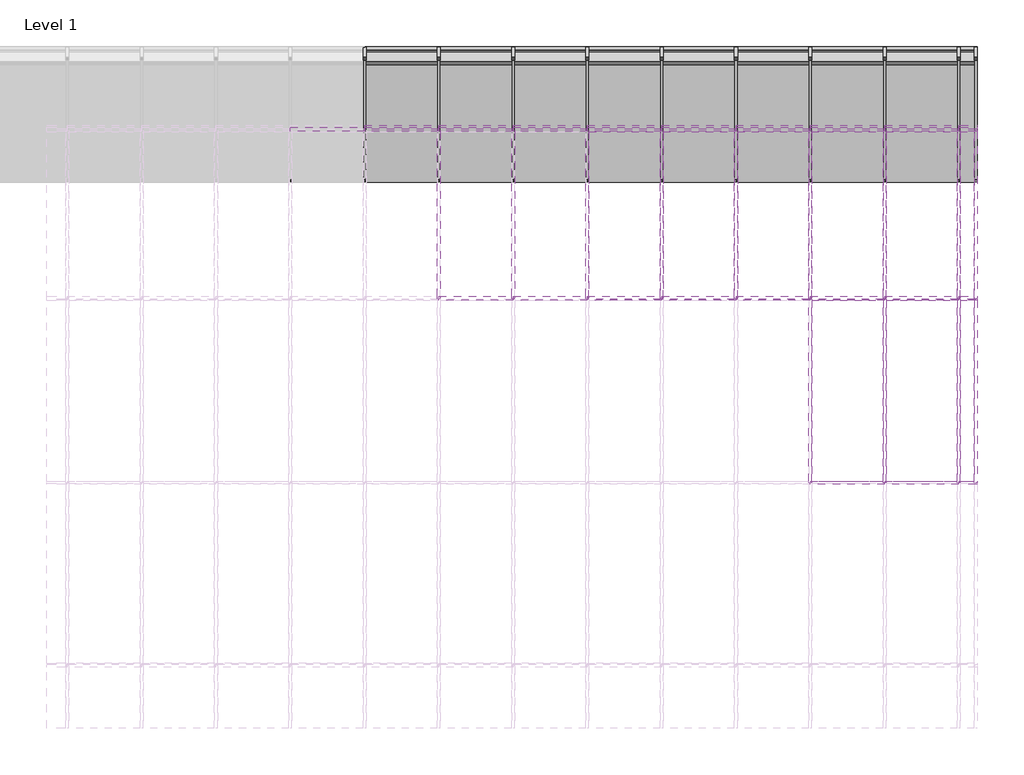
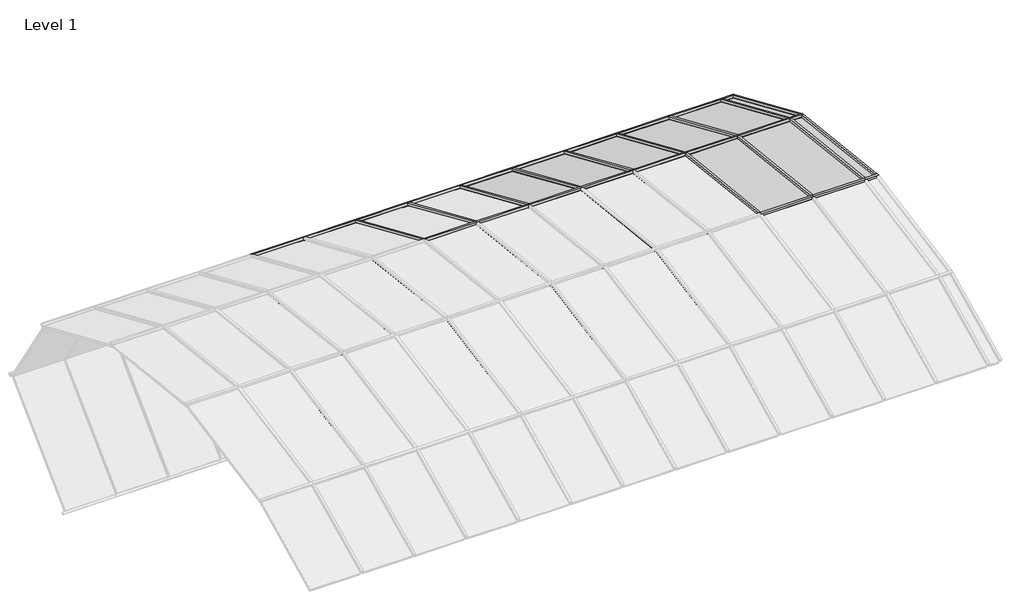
# One storey, part 22 of 23: 82 members, 27 plates.
"""IFC4 building model written with IfcOpenShell, lengths in millimetres."""

from ifc_helpers import new_model, si_unit, origin, place, context, project, spatial, transform, mapped, element, save
from components import member_68981e21, member_3e1f1dd8, member_fea202f7, member_e752087b, member_67cfadff, member_309acb9e, member_04f0a375, member_1d69e541, member_42213d33, member_0f8f75f6, member_88d46f17, member_1ddaab60, system_panel_glazed_51f493bd, system_panel_glazed_6e806f8e, system_panel_glazed_8cafdc8f, system_panel_glazed_3c61d676, system_panel_glazed_3957fabc, system_panel_glazed_e36701dd

model = new_model("IFC4")

# Units and contexts
model_context = context("Model", 3, world=origin())
ifc_project = project(units=[si_unit("LENGTHUNIT", "METRE", prefix="MILLI")], contexts=[model_context])

# Site, building, storey
site = spatial("IfcSite", under=ifc_project)
building = spatial("IfcBuilding", under=site)
storey = spatial("IfcBuildingStorey", under=building, Name="Level 1", Elevation=0.0)

# Members
placement = place(None, origin())
member_shape = member_68981e21(model_context)
element("IfcMember", 1, ObjectType="Rectangular Mullion : 1\" Square", at=placement, inside=storey, context=model_context, shape_type="MappedRepresentation", body=[
    mapped(member_shape, transform((450.2500186, 7543.2525753, 2085.6089632), x_axis=(0.0, 0.9167487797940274, -0.39946423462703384), y_axis=(0.0, 0.39946423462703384, 0.9167487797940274), z_axis=(1.0, 0.0, 0.0))),
])
element("IfcMember", 2, ObjectType="Rectangular Mullion : 1\" Square", at=placement, inside=storey, context=model_context, shape_type="MappedRepresentation", body=[
    mapped(member_shape, transform((1059.8500186, 7543.2525753, 2085.6089632), x_axis=(0.0, 0.9167487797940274, -0.39946423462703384), y_axis=(0.0, 0.39946423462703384, 0.9167487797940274), z_axis=(1.0, 0.0, 0.0))),
])
element("IfcMember", 3, ObjectType="Rectangular Mullion : 1\" Square", at=placement, inside=storey, context=model_context, shape_type="MappedRepresentation", body=[
    mapped(member_shape, transform((1669.4500186, 7543.2525753, 2085.6089632), x_axis=(0.0, 0.9167487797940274, -0.39946423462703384), y_axis=(0.0, 0.39946423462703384, 0.9167487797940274), z_axis=(1.0, 0.0, 0.0))),
])
element("IfcMember", 4, ObjectType="Rectangular Mullion : 1\" Square", at=placement, inside=storey, context=model_context, shape_type="MappedRepresentation", body=[
    mapped(member_shape, transform((2279.0500186, 7543.2525753, 2085.6089632), x_axis=(0.0, 0.9167487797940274, -0.39946423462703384), y_axis=(0.0, 0.39946423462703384, 0.9167487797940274), z_axis=(1.0, 0.0, 0.0))),
])
element("IfcMember", 5, ObjectType="Rectangular Mullion : 1\" Square", at=placement, inside=storey, context=model_context, shape_type="MappedRepresentation", body=[
    mapped(member_shape, transform((2888.6500186, 7543.2525753, 2085.6089632), x_axis=(0.0, 0.9167487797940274, -0.39946423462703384), y_axis=(0.0, 0.39946423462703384, 0.9167487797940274), z_axis=(1.0, 0.0, 0.0))),
])
element("IfcMember", 6, ObjectType="Rectangular Mullion : 1\" Square", at=placement, inside=storey, context=model_context, shape_type="MappedRepresentation", body=[
    mapped(member_shape, transform((3498.2500186, 7543.2525753, 2085.6089632), x_axis=(0.0, 0.9167487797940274, -0.39946423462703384), y_axis=(0.0, 0.39946423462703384, 0.9167487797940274), z_axis=(1.0, 0.0, 0.0))),
])
element("IfcMember", 7, ObjectType="Rectangular Mullion : 1\" Square", at=placement, inside=storey, context=model_context, shape_type="MappedRepresentation", body=[
    mapped(member_shape, transform((4107.8500186, 7543.2525753, 2085.6089632), x_axis=(0.0, 0.9167487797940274, -0.39946423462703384), y_axis=(0.0, 0.39946423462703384, 0.9167487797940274), z_axis=(1.0, 0.0, 0.0))),
])
element("IfcMember", 8, ObjectType="Rectangular Mullion : 1\" Square", at=placement, inside=storey, context=model_context, shape_type="MappedRepresentation", body=[
    mapped(member_shape, transform((4717.4500186, 7543.2525753, 2085.6089632), x_axis=(0.0, 0.9167487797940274, -0.39946423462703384), y_axis=(0.0, 0.39946423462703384, 0.9167487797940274), z_axis=(1.0, 0.0, 0.0))),
])
element("IfcMember", 9, ObjectType="Rectangular Mullion : 1\" Square", at=placement, inside=storey, context=model_context, shape_type="MappedRepresentation", body=[
    mapped(member_shape, transform((5327.0500186, 7543.2525753, 2085.6089632), x_axis=(0.0, 0.9167487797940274, -0.39946423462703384), y_axis=(0.0, 0.39946423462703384, 0.9167487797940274), z_axis=(1.0, 0.0, 0.0))),
])
element("IfcMember", 10, ObjectType="Rectangular Mullion : 1\" Square", at=placement, inside=storey, context=model_context, shape_type="MappedRepresentation", body=[
    mapped(member_shape, transform((450.2500186, 7111.8807303, 0.0), x_axis=(0.0, -0.713412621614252, -0.7007441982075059), y_axis=(0.0, 0.7007441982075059, -0.713412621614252), z_axis=(1.0, 0.0, 0.0))),
])
element("IfcMember", 11, ObjectType="Rectangular Mullion : 1\" Square", at=placement, inside=storey, context=model_context, shape_type="MappedRepresentation", body=[
    mapped(member_shape, transform((1059.8500186, 7111.8807303, 0.0), x_axis=(0.0, -0.713412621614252, -0.7007441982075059), y_axis=(0.0, 0.7007441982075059, -0.713412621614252), z_axis=(1.0, 0.0, 0.0))),
])
element("IfcMember", 12, ObjectType="Rectangular Mullion : 1\" Square", at=placement, inside=storey, context=model_context, shape_type="MappedRepresentation", body=[
    mapped(member_shape, transform((1669.4500186, 7111.8807303, 0.0), x_axis=(0.0, -0.713412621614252, -0.7007441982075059), y_axis=(0.0, 0.7007441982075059, -0.713412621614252), z_axis=(1.0, 0.0, 0.0))),
])
element("IfcMember", 13, ObjectType="Rectangular Mullion : 1\" Square", at=placement, inside=storey, context=model_context, shape_type="MappedRepresentation", body=[
    mapped(member_shape, transform((2279.0500186, 7111.8807303, 0.0), x_axis=(0.0, -0.713412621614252, -0.7007441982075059), y_axis=(0.0, 0.7007441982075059, -0.713412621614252), z_axis=(1.0, 0.0, 0.0))),
])
element("IfcMember", 14, ObjectType="Rectangular Mullion : 1\" Square", at=placement, inside=storey, context=model_context, shape_type="MappedRepresentation", body=[
    mapped(member_shape, transform((2888.6500186, 7111.8807303, 0.0), x_axis=(0.0, -0.713412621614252, -0.7007441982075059), y_axis=(0.0, 0.7007441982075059, -0.713412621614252), z_axis=(1.0, 0.0, 0.0))),
])
element("IfcMember", 15, ObjectType="Rectangular Mullion : 1\" Square", at=placement, inside=storey, context=model_context, shape_type="MappedRepresentation", body=[
    mapped(member_shape, transform((3498.2500186, 7111.8807303, 0.0), x_axis=(0.0, -0.713412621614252, -0.7007441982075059), y_axis=(0.0, 0.7007441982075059, -0.713412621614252), z_axis=(1.0, 0.0, 0.0))),
])
element("IfcMember", 16, ObjectType="Rectangular Mullion : 1\" Square", at=placement, inside=storey, context=model_context, shape_type="MappedRepresentation", body=[
    mapped(member_shape, transform((4107.8500186, 7111.8807303, 0.0), x_axis=(0.0, -0.713412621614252, -0.7007441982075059), y_axis=(0.0, 0.7007441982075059, -0.713412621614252), z_axis=(1.0, 0.0, 0.0))),
])
element("IfcMember", 17, ObjectType="Rectangular Mullion : 1\" Square", at=placement, inside=storey, context=model_context, shape_type="MappedRepresentation", body=[
    mapped(member_shape, transform((4717.4500186, 7111.8807303, 0.0), x_axis=(0.0, -0.713412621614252, -0.7007441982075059), y_axis=(0.0, 0.7007441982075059, -0.713412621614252), z_axis=(1.0, 0.0, 0.0))),
])
element("IfcMember", 18, ObjectType="Rectangular Mullion : 1\" Square", at=placement, inside=storey, context=model_context, shape_type="MappedRepresentation", body=[
    mapped(member_shape, transform((5327.0500186, 7111.8807303, 0.0), x_axis=(0.0, -0.713412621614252, -0.7007441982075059), y_axis=(0.0, 0.7007441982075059, -0.713412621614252), z_axis=(1.0, 0.0, 0.0))),
])
member_2_shape = member_3e1f1dd8(model_context)
element("IfcMember", 19, ObjectType="Rectangular Mullion : 1\" Square", at=placement, inside=storey, context=model_context, shape_type="MappedRepresentation", body=[
    mapped(member_2_shape, transform((4107.8500186, 4631.6132499, 2864.1651971), x_axis=(0.0, -0.9992773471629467, -0.038010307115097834), y_axis=(0.0, -0.038010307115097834, 0.9992773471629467), z_axis=(-1.0, 0.0, 0.0))),
])
element("IfcMember", 20, ObjectType="Rectangular Mullion : 1\" Square", at=placement, inside=storey, context=model_context, shape_type="MappedRepresentation", body=[
    mapped(member_2_shape, transform((4717.4500186, 4631.6132499, 2864.1651971), x_axis=(0.0, -0.9992773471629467, -0.038010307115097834), y_axis=(0.0, -0.038010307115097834, 0.9992773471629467), z_axis=(-1.0, 0.0, 0.0))),
])
member_3_shape = member_fea202f7(model_context)
element("IfcMember", 21, ObjectType="Rectangular Mullion : 1\" Square", at=placement, inside=storey, context=model_context, shape_type="MappedRepresentation", body=[
    mapped(member_3_shape, transform((5327.0500186, 4631.6132499, 2864.1651971), x_axis=(0.0, -0.9992773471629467, -0.038010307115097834), y_axis=(0.0, -0.038010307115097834, 0.9992773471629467), z_axis=(-1.0, 0.0, 0.0))),
])
element("IfcMember", 22, ObjectType="Rectangular Mullion : 1\" Square", at=placement, inside=storey, context=model_context, shape_type="MappedRepresentation", body=[
    mapped(member_shape, transform((450.2500186, 7543.2525753, 2085.6089632), x_axis=(0.0, -0.5417212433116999, 0.8405582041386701), y_axis=(0.0, 0.8405582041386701, 0.5417212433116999), z_axis=(-1.0, 0.0, 0.0))),
])
element("IfcMember", 23, ObjectType="Rectangular Mullion : 1\" Square", at=placement, inside=storey, context=model_context, shape_type="MappedRepresentation", body=[
    mapped(member_shape, transform((1059.8500186, 7543.2525753, 2085.6089632), x_axis=(0.0, -0.5417212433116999, 0.8405582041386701), y_axis=(0.0, 0.8405582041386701, 0.5417212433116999), z_axis=(-1.0, 0.0, 0.0))),
])
element("IfcMember", 24, ObjectType="Rectangular Mullion : 1\" Square", at=placement, inside=storey, context=model_context, shape_type="MappedRepresentation", body=[
    mapped(member_shape, transform((1669.4500186, 7543.2525753, 2085.6089632), x_axis=(0.0, -0.5417212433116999, 0.8405582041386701), y_axis=(0.0, 0.8405582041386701, 0.5417212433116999), z_axis=(-1.0, 0.0, 0.0))),
])
element("IfcMember", 25, ObjectType="Rectangular Mullion : 1\" Square", at=placement, inside=storey, context=model_context, shape_type="MappedRepresentation", body=[
    mapped(member_shape, transform((2279.0500186, 7543.2525753, 2085.6089632), x_axis=(0.0, -0.5417212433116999, 0.8405582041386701), y_axis=(0.0, 0.8405582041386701, 0.5417212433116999), z_axis=(-1.0, 0.0, 0.0))),
])
element("IfcMember", 26, ObjectType="Rectangular Mullion : 1\" Square", at=placement, inside=storey, context=model_context, shape_type="MappedRepresentation", body=[
    mapped(member_shape, transform((2888.6500186, 7543.2525753, 2085.6089632), x_axis=(0.0, -0.5417212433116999, 0.8405582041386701), y_axis=(0.0, 0.8405582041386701, 0.5417212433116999), z_axis=(-1.0, 0.0, 0.0))),
])
element("IfcMember", 27, ObjectType="Rectangular Mullion : 1\" Square", at=placement, inside=storey, context=model_context, shape_type="MappedRepresentation", body=[
    mapped(member_shape, transform((3498.2500186, 7543.2525753, 2085.6089632), x_axis=(0.0, -0.5417212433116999, 0.8405582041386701), y_axis=(0.0, 0.8405582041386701, 0.5417212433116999), z_axis=(-1.0, 0.0, 0.0))),
])
element("IfcMember", 28, ObjectType="Rectangular Mullion : 1\" Square", at=placement, inside=storey, context=model_context, shape_type="MappedRepresentation", body=[
    mapped(member_shape, transform((4107.8500186, 7543.2525753, 2085.6089632), x_axis=(0.0, -0.5417212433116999, 0.8405582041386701), y_axis=(0.0, 0.8405582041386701, 0.5417212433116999), z_axis=(-1.0, 0.0, 0.0))),
])
element("IfcMember", 29, ObjectType="Rectangular Mullion : 1\" Square", at=placement, inside=storey, context=model_context, shape_type="MappedRepresentation", body=[
    mapped(member_shape, transform((4717.4500186, 7543.2525753, 2085.6089632), x_axis=(0.0, -0.5417212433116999, 0.8405582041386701), y_axis=(0.0, 0.8405582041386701, 0.5417212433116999), z_axis=(-1.0, 0.0, 0.0))),
])
element("IfcMember", 30, ObjectType="Rectangular Mullion : 1\" Square", at=placement, inside=storey, context=model_context, shape_type="MappedRepresentation", body=[
    mapped(member_2_shape, transform((1059.8500186, 6146.1274349, 2694.3924567), x_axis=(0.0, -0.9660596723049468, 0.25831900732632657), y_axis=(0.0, 0.25831900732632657, 0.9660596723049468), z_axis=(-1.0, 0.0, 0.0))),
])
element("IfcMember", 31, ObjectType="Rectangular Mullion : 1\" Square", at=placement, inside=storey, context=model_context, shape_type="MappedRepresentation", body=[
    mapped(member_2_shape, transform((1669.4500186, 6146.1274349, 2694.3924567), x_axis=(0.0, -0.9660596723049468, 0.25831900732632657), y_axis=(0.0, 0.25831900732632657, 0.9660596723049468), z_axis=(-1.0, 0.0, 0.0))),
])
element("IfcMember", 32, ObjectType="Rectangular Mullion : 1\" Square", at=placement, inside=storey, context=model_context, shape_type="MappedRepresentation", body=[
    mapped(member_2_shape, transform((2279.0500186, 6146.1274349, 2694.3924567), x_axis=(0.0, -0.9660596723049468, 0.25831900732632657), y_axis=(0.0, 0.25831900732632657, 0.9660596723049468), z_axis=(-1.0, 0.0, 0.0))),
])
element("IfcMember", 33, ObjectType="Rectangular Mullion : 1\" Square", at=placement, inside=storey, context=model_context, shape_type="MappedRepresentation", body=[
    mapped(member_2_shape, transform((2888.6500186, 6146.1274349, 2694.3924567), x_axis=(0.0, -0.9660596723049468, 0.25831900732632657), y_axis=(0.0, 0.25831900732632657, 0.9660596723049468), z_axis=(-1.0, 0.0, 0.0))),
])
element("IfcMember", 34, ObjectType="Rectangular Mullion : 1\" Square", at=placement, inside=storey, context=model_context, shape_type="MappedRepresentation", body=[
    mapped(member_2_shape, transform((3498.2500186, 6146.1274349, 2694.3924567), x_axis=(0.0, -0.9660596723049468, 0.25831900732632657), y_axis=(0.0, 0.25831900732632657, 0.9660596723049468), z_axis=(-1.0, 0.0, 0.0))),
])
element("IfcMember", 35, ObjectType="Rectangular Mullion : 1\" Square", at=placement, inside=storey, context=model_context, shape_type="MappedRepresentation", body=[
    mapped(member_2_shape, transform((4107.8500186, 6146.1274349, 2694.3924567), x_axis=(0.0, -0.9660596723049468, 0.25831900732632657), y_axis=(0.0, 0.25831900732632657, 0.9660596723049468), z_axis=(-1.0, 0.0, 0.0))),
])
element("IfcMember", 36, ObjectType="Rectangular Mullion : 1\" Square", at=placement, inside=storey, context=model_context, shape_type="MappedRepresentation", body=[
    mapped(member_2_shape, transform((4717.4500186, 6146.1274349, 2694.3924567), x_axis=(0.0, -0.9660596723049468, 0.25831900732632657), y_axis=(0.0, 0.25831900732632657, 0.9660596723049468), z_axis=(-1.0, 0.0, 0.0))),
])
element("IfcMember", 37, ObjectType="Rectangular Mullion : 1\" Square", at=placement, inside=storey, context=model_context, shape_type="MappedRepresentation", body=[
    mapped(member_2_shape, transform((450.2500186, 8199.1215657, 1067.9341581), x_axis=(0.0, 0.017915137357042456, 0.9998395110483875), y_axis=(0.0, 0.9998395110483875, -0.017915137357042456), z_axis=(-1.0, 0.0, 0.0))),
])
element("IfcMember", 38, ObjectType="Rectangular Mullion : 1\" Square", at=placement, inside=storey, context=model_context, shape_type="MappedRepresentation", body=[
    mapped(member_2_shape, transform((1059.8500186, 8199.1215657, 1067.9341581), x_axis=(0.0, 0.017915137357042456, 0.9998395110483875), y_axis=(0.0, 0.9998395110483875, -0.017915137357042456), z_axis=(-1.0, 0.0, 0.0))),
])
element("IfcMember", 39, ObjectType="Rectangular Mullion : 1\" Square", at=placement, inside=storey, context=model_context, shape_type="MappedRepresentation", body=[
    mapped(member_2_shape, transform((1669.4500186, 8199.1215657, 1067.9341581), x_axis=(0.0, 0.017915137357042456, 0.9998395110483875), y_axis=(0.0, 0.9998395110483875, -0.017915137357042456), z_axis=(-1.0, 0.0, 0.0))),
])
element("IfcMember", 40, ObjectType="Rectangular Mullion : 1\" Square", at=placement, inside=storey, context=model_context, shape_type="MappedRepresentation", body=[
    mapped(member_2_shape, transform((2279.0500186, 8199.1215657, 1067.9341581), x_axis=(0.0, 0.017915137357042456, 0.9998395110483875), y_axis=(0.0, 0.9998395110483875, -0.017915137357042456), z_axis=(-1.0, 0.0, 0.0))),
])
element("IfcMember", 41, ObjectType="Rectangular Mullion : 1\" Square", at=placement, inside=storey, context=model_context, shape_type="MappedRepresentation", body=[
    mapped(member_2_shape, transform((2888.6500186, 8199.1215657, 1067.9341581), x_axis=(0.0, 0.017915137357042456, 0.9998395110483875), y_axis=(0.0, 0.9998395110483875, -0.017915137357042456), z_axis=(-1.0, 0.0, 0.0))),
])
element("IfcMember", 42, ObjectType="Rectangular Mullion : 1\" Square", at=placement, inside=storey, context=model_context, shape_type="MappedRepresentation", body=[
    mapped(member_2_shape, transform((3498.2500186, 8199.1215657, 1067.9341581), x_axis=(0.0, 0.017915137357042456, 0.9998395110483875), y_axis=(0.0, 0.9998395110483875, -0.017915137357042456), z_axis=(-1.0, 0.0, 0.0))),
])
element("IfcMember", 43, ObjectType="Rectangular Mullion : 1\" Square", at=placement, inside=storey, context=model_context, shape_type="MappedRepresentation", body=[
    mapped(member_2_shape, transform((4107.8500186, 8199.1215657, 1067.9341581), x_axis=(0.0, 0.017915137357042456, 0.9998395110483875), y_axis=(0.0, 0.9998395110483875, -0.017915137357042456), z_axis=(-1.0, 0.0, 0.0))),
])
element("IfcMember", 44, ObjectType="Rectangular Mullion : 1\" Square", at=placement, inside=storey, context=model_context, shape_type="MappedRepresentation", body=[
    mapped(member_2_shape, transform((4717.4500186, 8199.1215657, 1067.9341581), x_axis=(0.0, 0.017915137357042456, 0.9998395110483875), y_axis=(0.0, 0.9998395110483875, -0.017915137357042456), z_axis=(-1.0, 0.0, 0.0))),
])
element("IfcMember", 45, ObjectType="Rectangular Mullion : 1\" Square", at=placement, inside=storey, context=model_context, shape_type="MappedRepresentation", body=[
    mapped(member_3_shape, transform((5327.0500186, 6146.1274349, 2694.3924567), x_axis=(0.0, -0.9660596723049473, 0.25831900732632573), y_axis=(0.0, 0.2583190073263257, 0.966059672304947), z_axis=(-1.0, 0.0, 0.0))),
])
element("IfcMember", 46, ObjectType="Rectangular Mullion : 1\" Square", at=placement, inside=storey, context=model_context, shape_type="MappedRepresentation", body=[
    mapped(member_3_shape, transform((5327.0500186, 8199.1215657, 1067.9341581), x_axis=(0.0, 0.017915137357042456, 0.9998395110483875), y_axis=(0.0, 0.9998395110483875, -0.017915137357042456), z_axis=(-1.0, 0.0, 0.0))),
])
member_4_shape = member_e752087b(model_context)
element("IfcMember", 47, ObjectType="Rectangular Mullion : 1\" Square", at=placement, inside=storey, context=model_context, shape_type="MappedRepresentation", body=[
    mapped(member_4_shape, transform((5479.4500186, 7543.2525753, 2085.6089632), x_axis=(0.0, 0.9167487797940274, -0.39946423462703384), y_axis=(0.0, 0.39946423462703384, 0.9167487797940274), z_axis=(1.0, 0.0, 0.0))),
])
element("IfcMember", 48, ObjectType="Rectangular Mullion : 1\" Square", at=placement, inside=storey, context=model_context, shape_type="MappedRepresentation", body=[
    mapped(member_4_shape, transform((5479.4500186, 7111.8807303, 0.0), x_axis=(0.0, -0.713412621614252, -0.7007441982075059), y_axis=(0.0, 0.7007441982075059, -0.713412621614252), z_axis=(1.0, 0.0, 0.0))),
])
element("IfcMember", 49, ObjectType="Rectangular Mullion : 1\" Square", at=placement, inside=storey, context=model_context, shape_type="MappedRepresentation", body=[
    mapped(member_4_shape, transform((5327.0500186, 7543.2525753, 2085.6089632), x_axis=(0.0, -0.5417212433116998, 0.8405582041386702), y_axis=(0.0, 0.8405582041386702, 0.5417212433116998), z_axis=(-1.0, 0.0, 0.0))),
])
member_5_shape = member_67cfadff(model_context)
element("IfcMember", 50, ObjectType="Rectangular Mullion : 1\" Square", at=placement, inside=storey, context=model_context, shape_type="MappedRepresentation", body=[
    mapped(member_5_shape, transform((1059.8500186, 6157.7701444, 2689.3192609), x_axis=(1.0, 0.0, 0.0), y_axis=(0.0, 0.39946423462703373, 0.9167487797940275), z_axis=(0.0, -0.9167487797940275, 0.39946423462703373))),
])
element("IfcMember", 51, ObjectType="Rectangular Mullion : 1\" Square", at=placement, inside=storey, context=model_context, shape_type="MappedRepresentation", body=[
    mapped(member_5_shape, transform((1669.4500186, 6157.7701444, 2689.3192609), x_axis=(1.0, 0.0, 0.0), y_axis=(0.0, 0.39946423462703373, 0.9167487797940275), z_axis=(0.0, -0.9167487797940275, 0.39946423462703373))),
])
element("IfcMember", 52, ObjectType="Rectangular Mullion : 1\" Square", at=placement, inside=storey, context=model_context, shape_type="MappedRepresentation", body=[
    mapped(member_5_shape, transform((2279.0500186, 6157.7701444, 2689.3192609), x_axis=(1.0, 0.0, 0.0), y_axis=(0.0, 0.39946423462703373, 0.9167487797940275), z_axis=(0.0, -0.9167487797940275, 0.39946423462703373))),
])
element("IfcMember", 53, ObjectType="Rectangular Mullion : 1\" Square", at=placement, inside=storey, context=model_context, shape_type="MappedRepresentation", body=[
    mapped(member_5_shape, transform((2888.6500186, 6157.7701444, 2689.3192609), x_axis=(1.0, 0.0, 0.0), y_axis=(0.0, 0.39946423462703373, 0.9167487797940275), z_axis=(0.0, -0.9167487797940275, 0.39946423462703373))),
])
element("IfcMember", 54, ObjectType="Rectangular Mullion : 1\" Square", at=placement, inside=storey, context=model_context, shape_type="MappedRepresentation", body=[
    mapped(member_5_shape, transform((3498.2500186, 6157.7701444, 2689.3192609), x_axis=(1.0, 0.0, 0.0), y_axis=(0.0, 0.39946423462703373, 0.9167487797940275), z_axis=(0.0, -0.9167487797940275, 0.39946423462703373))),
])
element("IfcMember", 55, ObjectType="Rectangular Mullion : 1\" Square", at=placement, inside=storey, context=model_context, shape_type="MappedRepresentation", body=[
    mapped(member_5_shape, transform((4107.8500186, 6157.7701444, 2689.3192609), x_axis=(1.0, 0.0, 0.0), y_axis=(0.0, 0.39946423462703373, 0.9167487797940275), z_axis=(0.0, -0.9167487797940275, 0.39946423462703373))),
])
element("IfcMember", 56, ObjectType="Rectangular Mullion : 1\" Square", at=placement, inside=storey, context=model_context, shape_type="MappedRepresentation", body=[
    mapped(member_5_shape, transform((4717.4500186, 6157.7701444, 2689.3192609), x_axis=(1.0, 0.0, 0.0), y_axis=(0.0, 0.39946423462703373, 0.9167487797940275), z_axis=(0.0, -0.9167487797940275, 0.39946423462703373))),
])
member_6_shape = member_309acb9e(model_context)
element("IfcMember", 57, ObjectType="Rectangular Mullion : 1\" Square", at=placement, inside=storey, context=model_context, shape_type="MappedRepresentation", body=[
    mapped(member_6_shape, transform((4107.8500186, 4644.2342014, 2862.7504243), x_axis=(0.9999999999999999, 0.0, 0.0), y_axis=(0.0, 0.11139943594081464, 0.9937757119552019), z_axis=(0.0, -0.9937757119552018, 0.11139943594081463))),
])
element("IfcMember", 58, ObjectType="Rectangular Mullion : 1\" Square", at=placement, inside=storey, context=model_context, shape_type="MappedRepresentation", body=[
    mapped(member_6_shape, transform((4717.4500186, 4644.2342014, 2862.7504243), x_axis=(0.9999999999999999, 0.0, 0.0), y_axis=(0.0, 0.11139943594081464, 0.9937757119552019), z_axis=(0.0, -0.9937757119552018, 0.11139943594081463))),
])
element("IfcMember", 59, ObjectType="Rectangular Mullion : 1\" Square", at=placement, inside=storey, context=model_context, shape_type="MappedRepresentation", body=[
    mapped(member_5_shape, transform((5327.0500186, 6157.7701444, 2689.3192609), x_axis=(0.9999999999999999, 0.0, 0.0), y_axis=(0.0, 0.3994642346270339, 0.9167487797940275), z_axis=(0.0, -0.9167487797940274, 0.39946423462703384))),
])
element("IfcMember", 60, ObjectType="Rectangular Mullion : 1\" Square", at=placement, inside=storey, context=model_context, shape_type="MappedRepresentation", body=[
    mapped(member_6_shape, transform((5327.0500186, 4644.2342014, 2862.7504243), x_axis=(0.9999999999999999, 0.0, 0.0), y_axis=(0.0, 0.1113994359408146, 0.9937757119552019), z_axis=(0.0, -0.9937757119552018, 0.11139943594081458))),
])
member_7_shape = member_04f0a375(model_context)
element("IfcMember", 61, ObjectType="Rectangular Mullion : 1\" Square", at=placement, inside=storey, context=model_context, shape_type="MappedRepresentation", body=[
    mapped(member_7_shape, transform((5479.4500186, 6157.7701444, 2689.3192609), x_axis=(1.0, 0.0, 0.0), y_axis=(0.0, 0.39946423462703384, 0.9167487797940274), z_axis=(0.0, -0.9167487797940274, 0.39946423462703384))),
])
member_8_shape = member_1d69e541(model_context)
element("IfcMember", 62, ObjectType="Rectangular Mullion : 1\" Square", at=placement, inside=storey, context=model_context, shape_type="MappedRepresentation", body=[
    mapped(member_8_shape, transform((5479.4500186, 4644.2342014, 2862.7504243), x_axis=(1.0, 0.0, 0.0), y_axis=(0.0, 0.11139943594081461, 0.993775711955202), z_axis=(0.0, -0.9937757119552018, 0.11139943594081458))),
])
member_9_shape = member_42213d33(model_context)
element("IfcMember", 63, ObjectType="Rectangular Mullion : 1\" Square", at=placement, inside=storey, context=model_context, shape_type="MappedRepresentation", body=[
    mapped(member_9_shape, transform((3498.2500186, 8190.0612254, 1059.0347068), x_axis=(1.0, 0.0, 0.0), y_axis=(0.0, 0.7007441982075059, -0.713412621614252), z_axis=(0.0, 0.713412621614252, 0.7007441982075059))),
])
element("IfcMember", 64, ObjectType="Rectangular Mullion : 1\" Square", at=placement, inside=storey, context=model_context, shape_type="MappedRepresentation", body=[
    mapped(member_9_shape, transform((4107.8500186, 8190.0612254, 1059.0347068), x_axis=(1.0, 0.0, 0.0), y_axis=(0.0, 0.7007441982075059, -0.713412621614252), z_axis=(0.0, 0.713412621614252, 0.7007441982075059))),
])
element("IfcMember", 65, ObjectType="Rectangular Mullion : 1\" Square", at=placement, inside=storey, context=model_context, shape_type="MappedRepresentation", body=[
    mapped(member_9_shape, transform((4717.4500186, 8190.0612254, 1059.0347068), x_axis=(1.0, 0.0, 0.0), y_axis=(0.0, 0.7007441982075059, -0.713412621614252), z_axis=(0.0, 0.713412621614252, 0.7007441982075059))),
])
element("IfcMember", 66, ObjectType="Rectangular Mullion : 1\" Square", at=placement, inside=storey, context=model_context, shape_type="MappedRepresentation", body=[
    mapped(member_9_shape, transform((450.2500186, 8190.0612254, 1059.0347068), x_axis=(1.0, 0.0, 0.0), y_axis=(0.0, 0.7007441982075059, -0.713412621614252), z_axis=(0.0, 0.713412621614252, 0.7007441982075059))),
])
element("IfcMember", 67, ObjectType="Rectangular Mullion : 1\" Square", at=placement, inside=storey, context=model_context, shape_type="MappedRepresentation", body=[
    mapped(member_9_shape, transform((1059.8500186, 8190.0612254, 1059.0347068), x_axis=(1.0, 0.0, 0.0), y_axis=(0.0, 0.7007441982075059, -0.713412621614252), z_axis=(0.0, 0.713412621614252, 0.7007441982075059))),
])
element("IfcMember", 68, ObjectType="Rectangular Mullion : 1\" Square", at=placement, inside=storey, context=model_context, shape_type="MappedRepresentation", body=[
    mapped(member_9_shape, transform((1669.4500186, 8190.0612254, 1059.0347068), x_axis=(1.0, 0.0, 0.0), y_axis=(0.0, 0.7007441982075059, -0.713412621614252), z_axis=(0.0, 0.713412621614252, 0.7007441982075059))),
])
element("IfcMember", 69, ObjectType="Rectangular Mullion : 1\" Square", at=placement, inside=storey, context=model_context, shape_type="MappedRepresentation", body=[
    mapped(member_9_shape, transform((2279.0500186, 8190.0612254, 1059.0347068), x_axis=(1.0, 0.0, 0.0), y_axis=(0.0, 0.7007441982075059, -0.713412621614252), z_axis=(0.0, 0.713412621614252, 0.7007441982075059))),
])
element("IfcMember", 70, ObjectType="Rectangular Mullion : 1\" Square", at=placement, inside=storey, context=model_context, shape_type="MappedRepresentation", body=[
    mapped(member_9_shape, transform((2888.6500186, 8190.0612254, 1059.0347068), x_axis=(1.0, 0.0, 0.0), y_axis=(0.0, 0.7007441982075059, -0.713412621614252), z_axis=(0.0, 0.713412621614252, 0.7007441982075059))),
])
member_10_shape = member_0f8f75f6(model_context)
element("IfcMember", 71, ObjectType="Rectangular Mullion : 1\" Square", at=placement, inside=storey, context=model_context, shape_type="MappedRepresentation", body=[
    mapped(member_10_shape, transform((3498.2500186, 7557.0122949, 2064.2587848), x_axis=(0.9999999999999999, 0.0, 0.0), y_axis=(0.0, 0.8405582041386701, 0.5417212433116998), z_axis=(0.0, -0.5417212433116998, 0.84055820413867))),
])
element("IfcMember", 72, ObjectType="Rectangular Mullion : 1\" Square", at=placement, inside=storey, context=model_context, shape_type="MappedRepresentation", body=[
    mapped(member_10_shape, transform((4107.8500186, 7557.0122949, 2064.2587848), x_axis=(1.0, 0.0, 0.0), y_axis=(0.0, 0.8405582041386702, 0.5417212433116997), z_axis=(0.0, -0.5417212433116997, 0.8405582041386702))),
])
element("IfcMember", 73, ObjectType="Rectangular Mullion : 1\" Square", at=placement, inside=storey, context=model_context, shape_type="MappedRepresentation", body=[
    mapped(member_10_shape, transform((4717.4500186, 7557.0122949, 2064.2587848), x_axis=(1.0, 0.0, 0.0), y_axis=(0.0, 0.8405582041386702, 0.5417212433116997), z_axis=(0.0, -0.5417212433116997, 0.8405582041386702))),
])
element("IfcMember", 74, ObjectType="Rectangular Mullion : 1\" Square", at=placement, inside=storey, context=model_context, shape_type="MappedRepresentation", body=[
    mapped(member_10_shape, transform((450.2500186, 7557.0122949, 2064.2587848), x_axis=(0.9999999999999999, 0.0, 0.0), y_axis=(0.0, 0.8405582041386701, 0.5417212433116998), z_axis=(0.0, -0.5417212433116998, 0.84055820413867))),
])
element("IfcMember", 75, ObjectType="Rectangular Mullion : 1\" Square", at=placement, inside=storey, context=model_context, shape_type="MappedRepresentation", body=[
    mapped(member_10_shape, transform((1059.8500186, 7557.0122949, 2064.2587848), x_axis=(0.9999999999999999, 0.0, 0.0), y_axis=(0.0, 0.8405582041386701, 0.5417212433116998), z_axis=(0.0, -0.5417212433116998, 0.84055820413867))),
])
element("IfcMember", 76, ObjectType="Rectangular Mullion : 1\" Square", at=placement, inside=storey, context=model_context, shape_type="MappedRepresentation", body=[
    mapped(member_10_shape, transform((1669.4500186, 7557.0122949, 2064.2587848), x_axis=(0.9999999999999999, 0.0, 0.0), y_axis=(0.0, 0.8405582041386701, 0.5417212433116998), z_axis=(0.0, -0.5417212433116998, 0.84055820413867))),
])
element("IfcMember", 77, ObjectType="Rectangular Mullion : 1\" Square", at=placement, inside=storey, context=model_context, shape_type="MappedRepresentation", body=[
    mapped(member_10_shape, transform((2279.0500186, 7557.0122949, 2064.2587848), x_axis=(0.9999999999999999, 0.0, 0.0), y_axis=(0.0, 0.8405582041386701, 0.5417212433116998), z_axis=(0.0, -0.5417212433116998, 0.84055820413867))),
])
element("IfcMember", 78, ObjectType="Rectangular Mullion : 1\" Square", at=placement, inside=storey, context=model_context, shape_type="MappedRepresentation", body=[
    mapped(member_10_shape, transform((2888.6500186, 7557.0122949, 2064.2587848), x_axis=(0.9999999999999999, 0.0, 0.0), y_axis=(0.0, 0.8405582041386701, 0.5417212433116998), z_axis=(0.0, -0.5417212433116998, 0.84055820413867))),
])
element("IfcMember", 79, ObjectType="Rectangular Mullion : 1\" Square", at=placement, inside=storey, context=model_context, shape_type="MappedRepresentation", body=[
    mapped(member_9_shape, transform((5327.0500186, 8190.0612254, 1059.0347068), x_axis=(1.0, 0.0, 0.0), y_axis=(0.0, 0.7007441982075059, -0.713412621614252), z_axis=(0.0, 0.713412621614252, 0.7007441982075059))),
])
element("IfcMember", 80, ObjectType="Rectangular Mullion : 1\" Square", at=placement, inside=storey, context=model_context, shape_type="MappedRepresentation", body=[
    mapped(member_10_shape, transform((5327.0500186, 7557.0122949, 2064.2587848), x_axis=(0.9999999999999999, 0.0, 0.0), y_axis=(0.0, 0.8405582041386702, 0.5417212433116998), z_axis=(0.0, -0.5417212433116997, 0.84055820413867))),
])
member_11_shape = member_88d46f17(model_context)
element("IfcMember", 81, ObjectType="Rectangular Mullion : 1\" Square", at=placement, inside=storey, context=model_context, shape_type="MappedRepresentation", body=[
    mapped(member_11_shape, transform((5479.4500186, 8190.0612254, 1059.0347068), x_axis=(1.0, 0.0, 0.0), y_axis=(0.0, 0.7007441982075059, -0.713412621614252), z_axis=(0.0, 0.713412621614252, 0.7007441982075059))),
])
member_12_shape = member_1ddaab60(model_context)
element("IfcMember", 82, ObjectType="Rectangular Mullion : 1\" Square", at=placement, inside=storey, context=model_context, shape_type="MappedRepresentation", body=[
    mapped(member_12_shape, transform((5479.4500186, 7557.0122949, 2064.2587848), x_axis=(1.0, 0.0, 0.0), y_axis=(0.0, 0.8405582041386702, 0.5417212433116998), z_axis=(0.0, -0.5417212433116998, 0.8405582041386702))),
])

# Plates
system_panel_glazed_shape = system_panel_glazed_51f493bd(model_context)
element("IfcPlate", 83, ObjectType="System Panel : Glazed", at=placement, inside=storey, context=model_context, shape_type="MappedRepresentation", body=[
    mapped(system_panel_glazed_shape, transform((2291.7500186, 6838.8686503, 2392.5373078), x_axis=(0.0, -0.9167487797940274, 0.39946423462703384), y_axis=(0.0, -0.39946423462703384, -0.9167487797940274), z_axis=(1.0, 0.0, 0.0))),
])
element("IfcPlate", 84, ObjectType="System Panel : Glazed", at=placement, inside=storey, context=model_context, shape_type="MappedRepresentation", body=[
    mapped(system_panel_glazed_shape, transform((2901.3500186, 6838.8686503, 2392.5373078), x_axis=(0.0, -0.9167487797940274, 0.39946423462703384), y_axis=(0.0, -0.39946423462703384, -0.9167487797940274), z_axis=(1.0, 0.0, 0.0))),
])
element("IfcPlate", 85, ObjectType="System Panel : Glazed", at=placement, inside=storey, context=model_context, shape_type="MappedRepresentation", body=[
    mapped(system_panel_glazed_shape, transform((3510.9500186, 6838.8686503, 2392.5373078), x_axis=(0.0, -0.9167487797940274, 0.39946423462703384), y_axis=(0.0, -0.39946423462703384, -0.9167487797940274), z_axis=(1.0, 0.0, 0.0))),
])
element("IfcPlate", 86, ObjectType="System Panel : Glazed", at=placement, inside=storey, context=model_context, shape_type="MappedRepresentation", body=[
    mapped(system_panel_glazed_shape, transform((4120.5500186, 6838.8686503, 2392.5373078), x_axis=(0.0, -0.9167487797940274, 0.39946423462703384), y_axis=(0.0, -0.39946423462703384, -0.9167487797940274), z_axis=(1.0, 0.0, 0.0))),
])
element("IfcPlate", 87, ObjectType="System Panel : Glazed", at=placement, inside=storey, context=model_context, shape_type="MappedRepresentation", body=[
    mapped(system_panel_glazed_shape, transform((4730.1500186, 6838.8686503, 2392.5373078), x_axis=(0.0, -0.9167487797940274, 0.39946423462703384), y_axis=(0.0, -0.39946423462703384, -0.9167487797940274), z_axis=(1.0, 0.0, 0.0))),
])
element("IfcPlate", 88, ObjectType="System Panel : Glazed", at=placement, inside=storey, context=model_context, shape_type="MappedRepresentation", body=[
    mapped(system_panel_glazed_shape, transform((462.9500186, 7660.0313181, 538.4168047), x_axis=(0.0, 0.713412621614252, 0.7007441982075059), y_axis=(0.0, -0.7007441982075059, 0.713412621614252), z_axis=(1.0, 0.0, 0.0))),
])
element("IfcPlate", 89, ObjectType="System Panel : Glazed", at=placement, inside=storey, context=model_context, shape_type="MappedRepresentation", body=[
    mapped(system_panel_glazed_shape, transform((1072.5500186, 7660.0313181, 538.4168047), x_axis=(0.0, 0.713412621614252, 0.7007441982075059), y_axis=(0.0, -0.7007441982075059, 0.713412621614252), z_axis=(1.0, 0.0, 0.0))),
])
element("IfcPlate", 90, ObjectType="System Panel : Glazed", at=placement, inside=storey, context=model_context, shape_type="MappedRepresentation", body=[
    mapped(system_panel_glazed_shape, transform((1682.1500186, 7660.0313181, 538.4168047), x_axis=(0.0, 0.713412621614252, 0.7007441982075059), y_axis=(0.0, -0.7007441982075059, 0.713412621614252), z_axis=(1.0, 0.0, 0.0))),
])
element("IfcPlate", 91, ObjectType="System Panel : Glazed", at=placement, inside=storey, context=model_context, shape_type="MappedRepresentation", body=[
    mapped(system_panel_glazed_shape, transform((2291.7500186, 7660.0313181, 538.4168047), x_axis=(0.0, 0.713412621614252, 0.7007441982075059), y_axis=(0.0, -0.7007441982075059, 0.713412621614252), z_axis=(1.0, 0.0, 0.0))),
])
element("IfcPlate", 92, ObjectType="System Panel : Glazed", at=placement, inside=storey, context=model_context, shape_type="MappedRepresentation", body=[
    mapped(system_panel_glazed_shape, transform((2901.3500186, 7660.0313181, 538.4168047), x_axis=(0.0, 0.713412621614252, 0.7007441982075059), y_axis=(0.0, -0.7007441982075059, 0.713412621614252), z_axis=(1.0, 0.0, 0.0))),
])
element("IfcPlate", 93, ObjectType="System Panel : Glazed", at=placement, inside=storey, context=model_context, shape_type="MappedRepresentation", body=[
    mapped(system_panel_glazed_shape, transform((3510.9500186, 7660.0313181, 538.4168047), x_axis=(0.0, 0.713412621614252, 0.7007441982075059), y_axis=(0.0, -0.7007441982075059, 0.713412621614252), z_axis=(1.0, 0.0, 0.0))),
])
element("IfcPlate", 94, ObjectType="System Panel : Glazed", at=placement, inside=storey, context=model_context, shape_type="MappedRepresentation", body=[
    mapped(system_panel_glazed_shape, transform((4120.5500186, 7660.0313181, 538.4168047), x_axis=(0.0, 0.713412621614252, 0.7007441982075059), y_axis=(0.0, -0.7007441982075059, 0.713412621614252), z_axis=(1.0, 0.0, 0.0))),
])
element("IfcPlate", 95, ObjectType="System Panel : Glazed", at=placement, inside=storey, context=model_context, shape_type="MappedRepresentation", body=[
    mapped(system_panel_glazed_shape, transform((4730.1500186, 7660.0313181, 538.4168047), x_axis=(0.0, 0.713412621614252, 0.7007441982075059), y_axis=(0.0, -0.7007441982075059, 0.713412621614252), z_axis=(1.0, 0.0, 0.0))),
])
system_panel_glazed_2_shape = system_panel_glazed_6e806f8e(model_context)
element("IfcPlate", 96, ObjectType="System Panel : Glazed", at=placement, inside=storey, context=model_context, shape_type="MappedRepresentation", body=[
    mapped(system_panel_glazed_2_shape, transform((4120.5500186, 5388.8703424, 2779.2788269), x_axis=(0.0, -0.993775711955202, 0.11139943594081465), y_axis=(0.0, -0.11139943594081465, -0.993775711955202), z_axis=(1.0, 0.0, 0.0))),
])
element("IfcPlate", 97, ObjectType="System Panel : Glazed", at=placement, inside=storey, context=model_context, shape_type="MappedRepresentation", body=[
    mapped(system_panel_glazed_2_shape, transform((4730.1500186, 5388.8703424, 2779.2788269), x_axis=(0.0, -0.993775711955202, 0.11139943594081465), y_axis=(0.0, -0.11139943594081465, -0.993775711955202), z_axis=(1.0, 0.0, 0.0))),
])
system_panel_glazed_3_shape = system_panel_glazed_8cafdc8f(model_context)
element("IfcPlate", 98, ObjectType="System Panel : Glazed", at=placement, inside=storey, context=model_context, shape_type="MappedRepresentation", body=[
    mapped(system_panel_glazed_3_shape, transform((5339.7500186, 6838.8686503, 2392.5373078), x_axis=(0.0, -0.9167487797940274, 0.39946423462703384), y_axis=(0.0, -0.39946423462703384, -0.9167487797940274), z_axis=(1.0, 0.0, 0.0))),
])
element("IfcPlate", 99, ObjectType="System Panel : Glazed", at=placement, inside=storey, context=model_context, shape_type="MappedRepresentation", body=[
    mapped(system_panel_glazed_3_shape, transform((5339.7500186, 7660.0313181, 538.4168047), x_axis=(0.0, 0.713412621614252, 0.7007441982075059), y_axis=(0.0, -0.7007441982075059, 0.713412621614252), z_axis=(1.0, 0.0, 0.0))),
])
system_panel_glazed_4_shape = system_panel_glazed_3c61d676(model_context)
element("IfcPlate", 100, ObjectType="System Panel : Glazed", at=placement, inside=storey, context=model_context, shape_type="MappedRepresentation", body=[
    mapped(system_panel_glazed_4_shape, transform((5339.7500186, 5388.8703424, 2779.2788269), x_axis=(0.0, -0.993775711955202, 0.11139943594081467), y_axis=(0.0, -0.11139943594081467, -0.993775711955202), z_axis=(1.0, 0.0, 0.0))),
])
system_panel_glazed_5_shape = system_panel_glazed_3957fabc(model_context)
element("IfcPlate", 101, ObjectType="System Panel : Glazed", at=placement, inside=storey, context=model_context, shape_type="MappedRepresentation", body=[
    mapped(system_panel_glazed_5_shape, transform((462.9500186, 7874.6270004, 1571.434016), x_axis=(0.0, -0.5417212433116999, 0.8405582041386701), y_axis=(0.0, -0.8405582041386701, -0.5417212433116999), z_axis=(1.0, 0.0, 0.0))),
])
element("IfcPlate", 102, ObjectType="System Panel : Glazed", at=placement, inside=storey, context=model_context, shape_type="MappedRepresentation", body=[
    mapped(system_panel_glazed_5_shape, transform((1072.5500186, 7874.6270004, 1571.434016), x_axis=(0.0, -0.5417212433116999, 0.8405582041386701), y_axis=(0.0, -0.8405582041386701, -0.5417212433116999), z_axis=(1.0, 0.0, 0.0))),
])
element("IfcPlate", 103, ObjectType="System Panel : Glazed", at=placement, inside=storey, context=model_context, shape_type="MappedRepresentation", body=[
    mapped(system_panel_glazed_5_shape, transform((1682.1500186, 7874.6270004, 1571.434016), x_axis=(0.0, -0.5417212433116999, 0.8405582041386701), y_axis=(0.0, -0.8405582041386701, -0.5417212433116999), z_axis=(1.0, 0.0, 0.0))),
])
element("IfcPlate", 104, ObjectType="System Panel : Glazed", at=placement, inside=storey, context=model_context, shape_type="MappedRepresentation", body=[
    mapped(system_panel_glazed_5_shape, transform((2291.7500186, 7874.6270004, 1571.434016), x_axis=(0.0, -0.5417212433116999, 0.8405582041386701), y_axis=(0.0, -0.8405582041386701, -0.5417212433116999), z_axis=(1.0, 0.0, 0.0))),
])
element("IfcPlate", 105, ObjectType="System Panel : Glazed", at=placement, inside=storey, context=model_context, shape_type="MappedRepresentation", body=[
    mapped(system_panel_glazed_5_shape, transform((2901.3500186, 7874.6270004, 1571.434016), x_axis=(0.0, -0.5417212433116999, 0.8405582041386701), y_axis=(0.0, -0.8405582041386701, -0.5417212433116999), z_axis=(1.0, 0.0, 0.0))),
])
element("IfcPlate", 106, ObjectType="System Panel : Glazed", at=placement, inside=storey, context=model_context, shape_type="MappedRepresentation", body=[
    mapped(system_panel_glazed_5_shape, transform((3510.9500186, 7874.6270004, 1571.434016), x_axis=(0.0, -0.5417212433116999, 0.8405582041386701), y_axis=(0.0, -0.8405582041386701, -0.5417212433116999), z_axis=(1.0, 0.0, 0.0))),
])
element("IfcPlate", 107, ObjectType="System Panel : Glazed", at=placement, inside=storey, context=model_context, shape_type="MappedRepresentation", body=[
    mapped(system_panel_glazed_5_shape, transform((4120.5500186, 7874.6270004, 1571.434016), x_axis=(0.0, -0.5417212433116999, 0.8405582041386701), y_axis=(0.0, -0.8405582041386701, -0.5417212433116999), z_axis=(1.0, 0.0, 0.0))),
])
element("IfcPlate", 108, ObjectType="System Panel : Glazed", at=placement, inside=storey, context=model_context, shape_type="MappedRepresentation", body=[
    mapped(system_panel_glazed_5_shape, transform((4730.1500186, 7874.6270004, 1571.434016), x_axis=(0.0, -0.5417212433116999, 0.8405582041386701), y_axis=(0.0, -0.8405582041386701, -0.5417212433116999), z_axis=(1.0, 0.0, 0.0))),
])
system_panel_glazed_6_shape = system_panel_glazed_e36701dd(model_context)
element("IfcPlate", 109, ObjectType="System Panel : Glazed", at=placement, inside=storey, context=model_context, shape_type="MappedRepresentation", body=[
    mapped(system_panel_glazed_6_shape, transform((5339.7500186, 7874.6270004, 1571.434016), x_axis=(0.0, -0.5417212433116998, 0.8405582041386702), y_axis=(0.0, -0.8405582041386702, -0.5417212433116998), z_axis=(1.0, 0.0, 0.0))),
])

save(model, "model.ifc")
